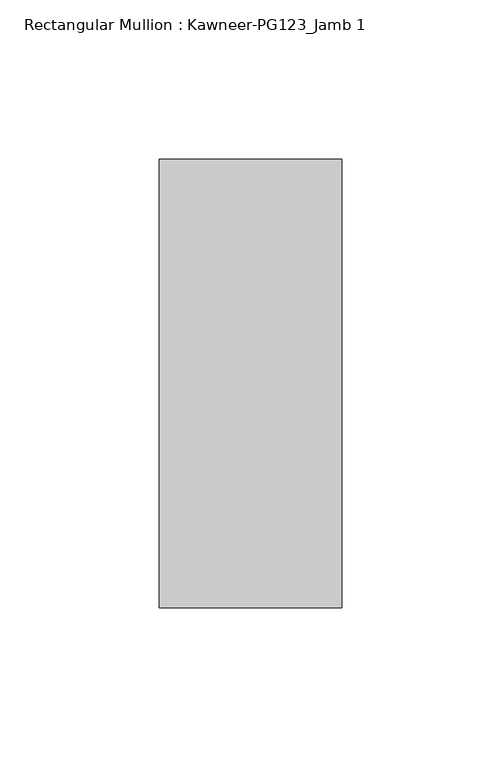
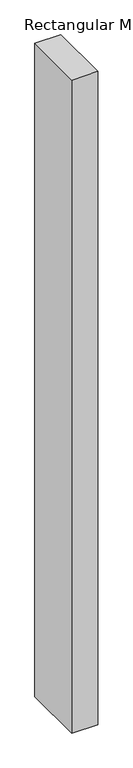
"""IFC4 building model written with IfcOpenShell, lengths in millimetres: member geometry, Rectangular Mullion : Kawneer-PG123_Jamb 1."""

from ifc_helpers import new_model, si_unit, frame, origin, place, context, project, spatial, polyline, outline, extrude, source, transform, mapped, element, save


def rectangular_mullion_kawneer_pg123_jamb_1_d5503470(model_context):
    return source(origin(), model_context, "Body", "SweptSolid", [
        extrude(outline(polyline([(0.0, 64.4779044), (0.0, -76.2), (-57.15, -76.2), (-57.15, 64.4779044), (0.0, 64.4779044)])), frame((0.0, 0.0, -1524.0), z_axis=(0.0, 0.0, 1.0), x_axis=(1.0, 0.0, 0.0)), (0.0, 0.0, 1.0), 1524.0),
    ])


if __name__ == "__main__":
    model = new_model("IFC4")
    model_context = context("Model", 3, world=origin())
    ifc_project = project(units=[si_unit("LENGTHUNIT", "METRE", prefix="MILLI")], contexts=[model_context])
    site = spatial("IfcSite", under=ifc_project)
    building = spatial("IfcBuilding", under=site)
    placement = place(None, origin())
    rectangular_mullion_kawneer_pg123_jamb_1_shape = rectangular_mullion_kawneer_pg123_jamb_1_d5503470(model_context)
    element("IfcMember", 1, ObjectType="Rectangular Mullion : Kawneer-PG123_Jamb 1", at=placement, inside=building, context=model_context, shape_type="MappedRepresentation", body=[
        mapped(rectangular_mullion_kawneer_pg123_jamb_1_shape, transform((0.0, 0.0, 0.0), x_axis=(1.0, 0.0, 0.0), y_axis=(0.0, 1.0, 0.0), z_axis=(0.0, 0.0, 1.0))),
    ])
    save(model, "model.ifc")
